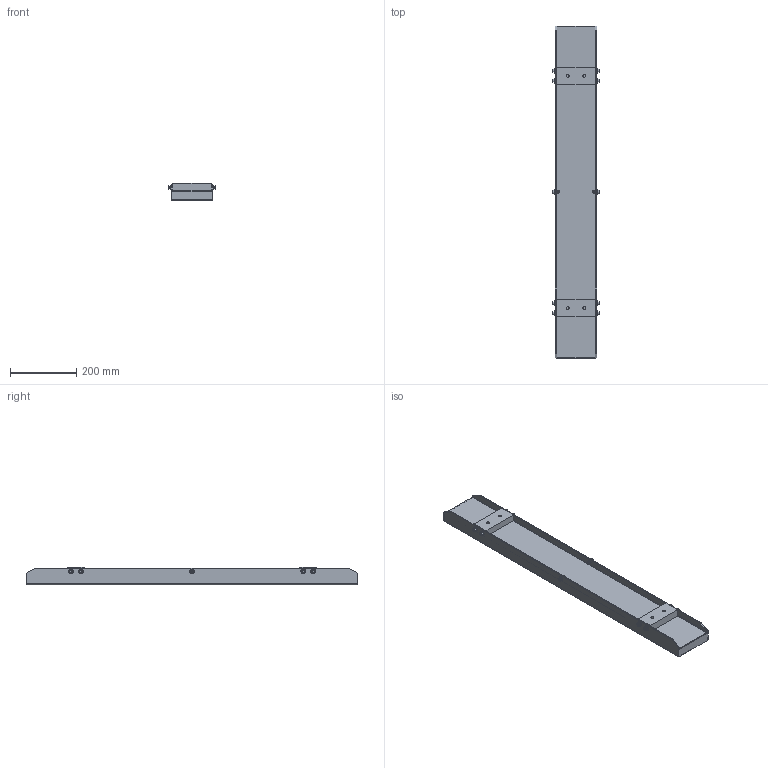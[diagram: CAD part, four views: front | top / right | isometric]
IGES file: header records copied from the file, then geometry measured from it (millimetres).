
Global section: file name: SPR-125Wx050Hx1000L; native system: unknown; preprocessor: unknown; author: unknown; organization: unknown; date: 20221219.154422; units: millimetre
Bounding box: 141.6 x 1000 x 52 mm (x, y, z)
Volume: 1024684.3 mm3; surface area: 829897.1 mm2
Topology: 26 solids, 26 shells, 338 faces, 820 edges, 554 vertices
Faces by surface type: bspline 338
